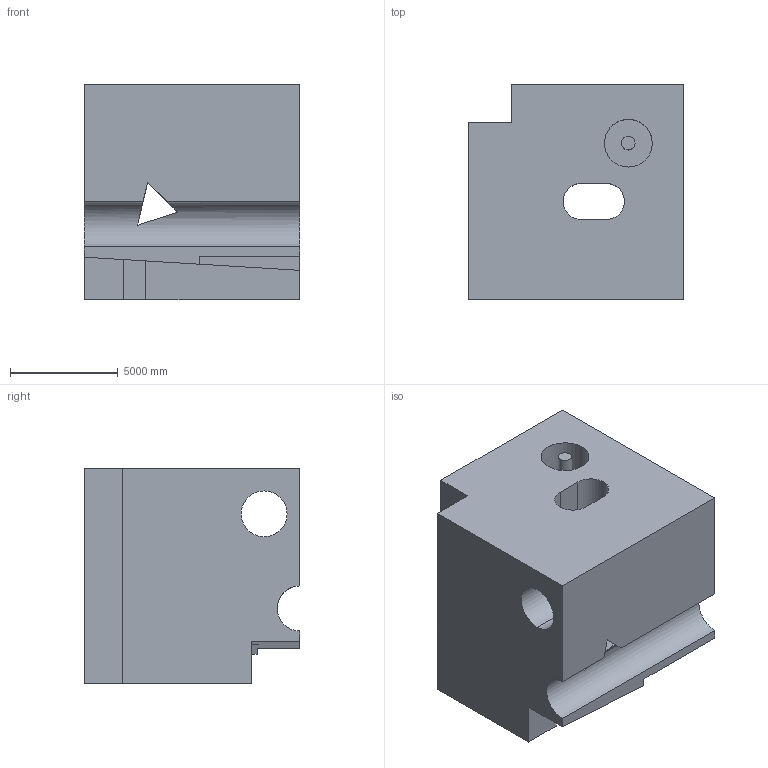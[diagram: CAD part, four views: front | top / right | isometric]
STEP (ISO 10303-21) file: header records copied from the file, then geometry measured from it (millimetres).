
FILE_DESCRIPTION (( 'STEP AP203' ), '1' );
FILE_NAME ('901.STEP', '2022-08-04T16:12:07', ( 'user' ), ( '' ), 'SwSTEP 2.0', 'SolidWorks 2021', '' );
FILE_SCHEMA (( 'CONFIG_CONTROL_DESIGN' ));
Length unit declared in the file: centimetre
Products named in the file (1): 901
Bounding box: 10000 x 10000 x 10000 mm (x, y, z)
Volume: 783100836597 mm3; surface area: 851168474.5 mm2
Topology: 1 solids, 1 shells, 42 faces, 120 edges, 80 vertices
Faces by surface type: plane 32, cylinder 10
Entity records: 1457 total; most frequent: CARTESIAN_POINT 252, ORIENTED_EDGE 240, DIRECTION 223, EDGE_CURVE 120, LINE 97, VECTOR 97, VERTEX_POINT 80, AXIS2_PLACEMENT_3D 63
